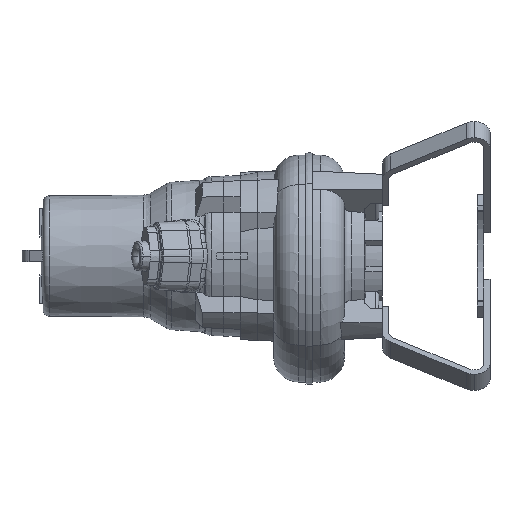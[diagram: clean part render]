
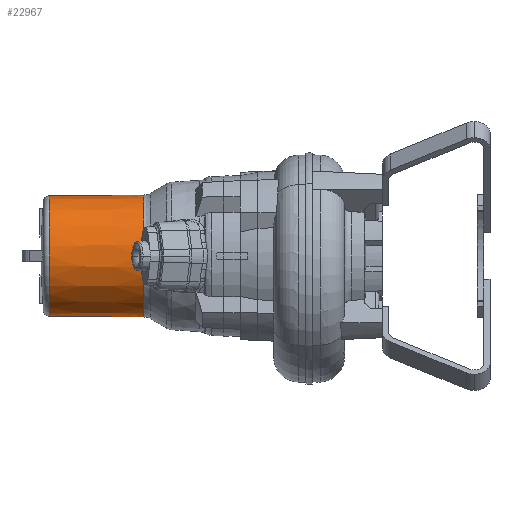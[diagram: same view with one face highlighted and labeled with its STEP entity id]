
A CAD part, left-side view. The second image highlights one B-rep face of the part: STEP entity #22967.
In plain terms, the highlighted conical face has half-angle 0.524 degrees and reference radius 95 mm.
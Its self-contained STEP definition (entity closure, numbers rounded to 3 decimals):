
#1594 = CARTESIAN_POINT ( 'NONE',  ( 0., 278.855, -95.084 ) ) ;
#1606 = CARTESIAN_POINT ( 'NONE',  ( 0., 129.261, 96.452 ) ) ;
#2438 = CARTESIAN_POINT ( 'NONE',  ( 0., 278.855, 95.084 ) ) ;
#2778 = LINE ( 'NONE', #7661, #10328 ) ;
#3194 = AXIS2_PLACEMENT_3D ( 'NONE', #14105, #4248, #6751 ) ;
#4248 = DIRECTION ( 'NONE',  ( 0., -1., 0. ) ) ;
#4690 = CARTESIAN_POINT ( 'NONE',  ( 0., 288., -95. ) ) ;
#5612 = DIRECTION ( 'NONE',  ( 0., -1., 0.009 ) ) ;
#5703 = VERTEX_POINT ( 'NONE', #2438 ) ;
#6751 = DIRECTION ( 'NONE',  ( 0., 0., 1. ) ) ;
#7661 = CARTESIAN_POINT ( 'NONE',  ( 0., 288., 95. ) ) ;
#8407 = EDGE_CURVE ( 'NONE', #5703, #15964, #11697, .T. ) ;
#8417 = ORIENTED_EDGE ( 'NONE', *, *, #13948, .T. ) ;
#10328 = VECTOR ( 'NONE', #5612, 1000. ) ;
#10511 = CONICAL_SURFACE ( 'NONE', #23982, 95., 0.009 ) ;
#11059 = ORIENTED_EDGE ( 'NONE', *, *, #8407, .T. ) ;
#11697 = CIRCLE ( 'NONE', #3194, 95.084 ) ;
#12036 = DIRECTION ( 'NONE',  ( 0., -1., -0.009 ) ) ;
#12086 = ORIENTED_EDGE ( 'NONE', *, *, #22268, .T. ) ;
#13485 = CIRCLE ( 'NONE', #20446, 96.452 ) ;
#13516 = CARTESIAN_POINT ( 'NONE',  ( 0., 288., 0. ) ) ;
#13737 = CARTESIAN_POINT ( 'NONE',  ( 0., 129.261, 0. ) ) ;
#13824 = VECTOR ( 'NONE', #12036, 1000. ) ;
#13948 = EDGE_CURVE ( 'NONE', #15964, #27979, #14378, .T. ) ;
#14050 = DIRECTION ( 'NONE',  ( 0., 0., -1. ) ) ;
#14101 = EDGE_CURVE ( 'NONE', #5703, #21758, #2778, .T. ) ;
#14105 = CARTESIAN_POINT ( 'NONE',  ( 0., 278.855, 0. ) ) ;
#14378 = LINE ( 'NONE', #4690, #13824 ) ;
#15852 = DIRECTION ( 'NONE',  ( 0., -1., 0. ) ) ;
#15964 = VERTEX_POINT ( 'NONE', #1594 ) ;
#16145 = CARTESIAN_POINT ( 'NONE',  ( 0., 129.261, -96.452 ) ) ;
#16371 = DIRECTION ( 'NONE',  ( 0., 1., 0. ) ) ;
#18963 = FACE_OUTER_BOUND ( 'NONE', #24688, .T. ) ;
#20446 = AXIS2_PLACEMENT_3D ( 'NONE', #13737, #16371, #14050 ) ;
#21758 = VERTEX_POINT ( 'NONE', #1606 ) ;
#22268 = EDGE_CURVE ( 'NONE', #27979, #21758, #13485, .T. ) ;
#22967 = ADVANCED_FACE ( 'NONE', ( #18963 ), #10511, .T. ) ;
#23982 = AXIS2_PLACEMENT_3D ( 'NONE', #13516, #15852, #25393 ) ;
#24688 = EDGE_LOOP ( 'NONE', ( #27016, #11059, #8417, #12086 ) ) ;
#25393 = DIRECTION ( 'NONE',  ( 0., 0., -1. ) ) ;
#27016 = ORIENTED_EDGE ( 'NONE', *, *, #14101, .F. ) ;
#27979 = VERTEX_POINT ( 'NONE', #16145 ) ;
